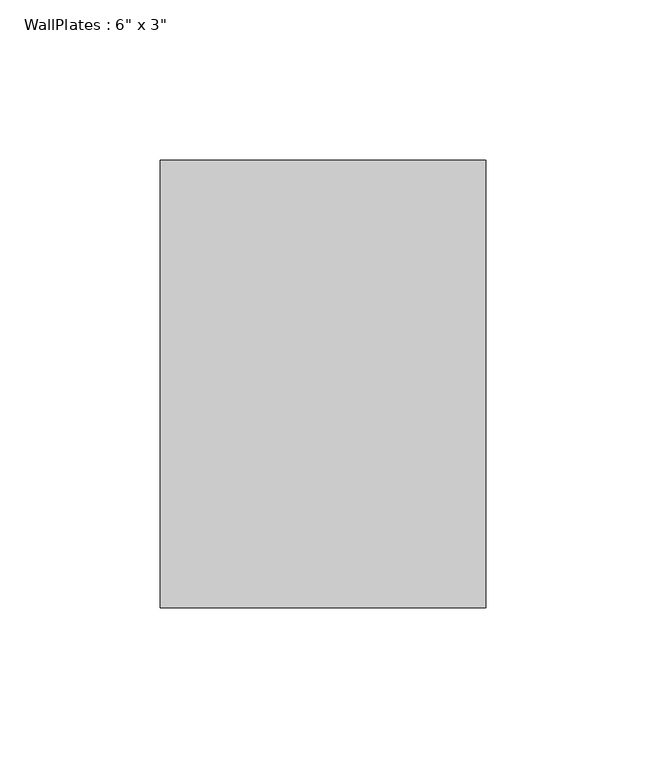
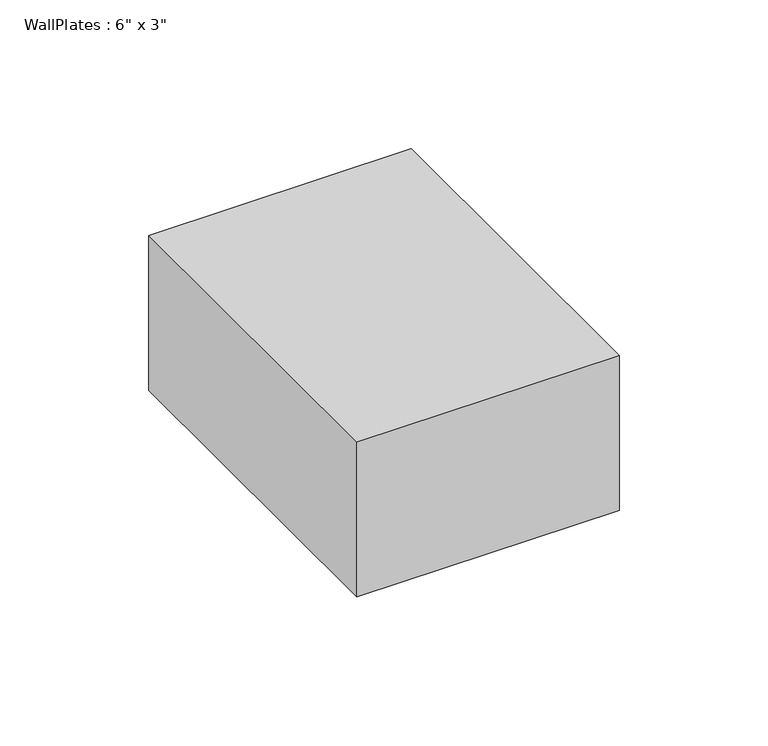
"""IFC4 building model written with IfcOpenShell, lengths in millimetres: beam geometry."""

from ifc_helpers import new_model, si_unit, frame, origin, place, context, project, spatial, polyline, outline, extrude, source, transform, mapped, element, save


def beam_764520b5(model_context):
    return source(origin(), model_context, "Body", "SweptSolid", [
        extrude(outline(polyline([(-50.805, -69.85), (-50.805, 69.85), (50.805, 69.85), (50.805, -69.85), (-50.805, -69.85)])), frame((0.0, 0.0, -31.75), z_axis=(0.0, 0.0, 1.0), x_axis=(1.0, 0.0, 0.0)), (0.0, 0.0, 1.0), 63.5),
    ])


if __name__ == "__main__":
    model = new_model("IFC4")
    model_context = context("Model", 3, world=origin())
    ifc_project = project(units=[si_unit("LENGTHUNIT", "METRE", prefix="MILLI")], contexts=[model_context])
    site = spatial("IfcSite", under=ifc_project)
    building = spatial("IfcBuilding", under=site)
    placement = place(None, origin())
    beam_shape = beam_764520b5(model_context)
    element("IfcBeam", 1, ObjectType="WallPlates : 6\" x 3\"", at=placement, inside=building, context=model_context, shape_type="MappedRepresentation", body=[
        mapped(beam_shape, transform((0.0, 0.0, 0.0), x_axis=(1.0, 0.0, 0.0), y_axis=(0.0, 1.0, 0.0), z_axis=(0.0, 0.0, 1.0))),
    ])
    save(model, "model.ifc")
